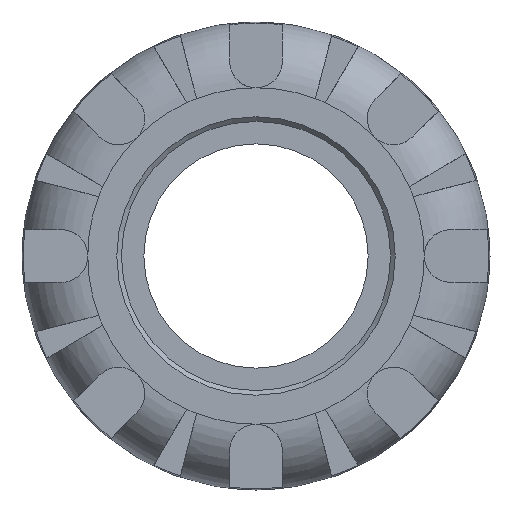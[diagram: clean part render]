
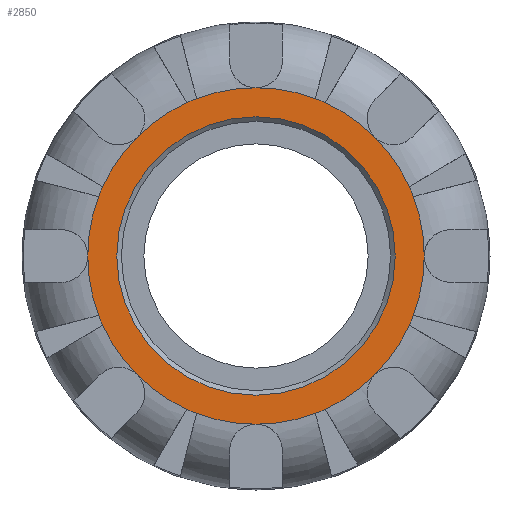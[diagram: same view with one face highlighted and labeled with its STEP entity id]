
A CAD part, left-side view. The second image highlights one B-rep face of the part: STEP entity #2850.
In plain terms, the highlighted planar face has unit normal (-1, 0, 0).
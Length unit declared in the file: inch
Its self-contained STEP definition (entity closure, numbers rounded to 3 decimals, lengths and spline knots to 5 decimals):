
#19=FACE_BOUND('',#619,.T.);
#34=PLANE('',#3049);
#454=FACE_OUTER_BOUND('',#618,.T.);
#618=EDGE_LOOP('',(#1823,#1824,#1825,#1826,#1827,#1828,#1829,#1830,#1831,
#1832,#1833,#1834,#1835,#1836,#1837,#1838,#1839,#1840,#1841,#1842,#1843,
#1844,#1845,#1846));
#619=EDGE_LOOP('',(#1847));
#785=CIRCLE('',#3046,0.67831);
#788=CIRCLE('',#3050,0.81939);
#789=CIRCLE('',#3051,0.81939);
#790=CIRCLE('',#3052,0.81939);
#791=CIRCLE('',#3053,0.81939);
#792=CIRCLE('',#3054,0.81939);
#793=CIRCLE('',#3055,0.81939);
#794=CIRCLE('',#3056,0.81939);
#795=CIRCLE('',#3057,0.81939);
#796=CIRCLE('',#3058,0.81939);
#797=CIRCLE('',#3059,0.81939);
#798=CIRCLE('',#3060,0.81939);
#799=CIRCLE('',#3061,0.81939);
#800=CIRCLE('',#3062,0.81939);
#801=CIRCLE('',#3063,0.81939);
#802=CIRCLE('',#3064,0.81939);
#803=CIRCLE('',#3065,0.81939);
#804=CIRCLE('',#3066,0.81939);
#805=CIRCLE('',#3067,0.81939);
#806=CIRCLE('',#3068,0.81939);
#807=CIRCLE('',#3069,0.81939);
#808=CIRCLE('',#3070,0.81939);
#809=CIRCLE('',#3071,0.81939);
#810=CIRCLE('',#3072,0.81939);
#811=CIRCLE('',#3073,0.81939);
#1077=VERTEX_POINT('',#4469);
#1080=VERTEX_POINT('',#4477);
#1081=VERTEX_POINT('',#4478);
#1082=VERTEX_POINT('',#4480);
#1083=VERTEX_POINT('',#4482);
#1084=VERTEX_POINT('',#4484);
#1085=VERTEX_POINT('',#4486);
#1086=VERTEX_POINT('',#4488);
#1087=VERTEX_POINT('',#4490);
#1088=VERTEX_POINT('',#4492);
#1089=VERTEX_POINT('',#4494);
#1090=VERTEX_POINT('',#4496);
#1091=VERTEX_POINT('',#4498);
#1092=VERTEX_POINT('',#4500);
#1093=VERTEX_POINT('',#4502);
#1094=VERTEX_POINT('',#4504);
#1095=VERTEX_POINT('',#4506);
#1096=VERTEX_POINT('',#4508);
#1097=VERTEX_POINT('',#4510);
#1098=VERTEX_POINT('',#4512);
#1099=VERTEX_POINT('',#4514);
#1100=VERTEX_POINT('',#4516);
#1101=VERTEX_POINT('',#4518);
#1102=VERTEX_POINT('',#4520);
#1103=VERTEX_POINT('',#4522);
#1363=EDGE_CURVE('',#1077,#1077,#785,.T.);
#1367=EDGE_CURVE('',#1080,#1081,#788,.T.);
#1368=EDGE_CURVE('',#1082,#1080,#789,.T.);
#1369=EDGE_CURVE('',#1083,#1082,#790,.T.);
#1370=EDGE_CURVE('',#1084,#1083,#791,.T.);
#1371=EDGE_CURVE('',#1085,#1084,#792,.T.);
#1372=EDGE_CURVE('',#1086,#1085,#793,.T.);
#1373=EDGE_CURVE('',#1087,#1086,#794,.T.);
#1374=EDGE_CURVE('',#1088,#1087,#795,.T.);
#1375=EDGE_CURVE('',#1089,#1088,#796,.T.);
#1376=EDGE_CURVE('',#1090,#1089,#797,.T.);
#1377=EDGE_CURVE('',#1091,#1090,#798,.T.);
#1378=EDGE_CURVE('',#1092,#1091,#799,.T.);
#1379=EDGE_CURVE('',#1093,#1092,#800,.T.);
#1380=EDGE_CURVE('',#1094,#1093,#801,.T.);
#1381=EDGE_CURVE('',#1095,#1094,#802,.T.);
#1382=EDGE_CURVE('',#1096,#1095,#803,.T.);
#1383=EDGE_CURVE('',#1097,#1096,#804,.T.);
#1384=EDGE_CURVE('',#1098,#1097,#805,.T.);
#1385=EDGE_CURVE('',#1099,#1098,#806,.T.);
#1386=EDGE_CURVE('',#1100,#1099,#807,.T.);
#1387=EDGE_CURVE('',#1101,#1100,#808,.T.);
#1388=EDGE_CURVE('',#1102,#1101,#809,.T.);
#1389=EDGE_CURVE('',#1103,#1102,#810,.T.);
#1390=EDGE_CURVE('',#1081,#1103,#811,.T.);
#1823=ORIENTED_EDGE('',*,*,#1367,.F.);
#1824=ORIENTED_EDGE('',*,*,#1368,.F.);
#1825=ORIENTED_EDGE('',*,*,#1369,.F.);
#1826=ORIENTED_EDGE('',*,*,#1370,.F.);
#1827=ORIENTED_EDGE('',*,*,#1371,.F.);
#1828=ORIENTED_EDGE('',*,*,#1372,.F.);
#1829=ORIENTED_EDGE('',*,*,#1373,.F.);
#1830=ORIENTED_EDGE('',*,*,#1374,.F.);
#1831=ORIENTED_EDGE('',*,*,#1375,.F.);
#1832=ORIENTED_EDGE('',*,*,#1376,.F.);
#1833=ORIENTED_EDGE('',*,*,#1377,.F.);
#1834=ORIENTED_EDGE('',*,*,#1378,.F.);
#1835=ORIENTED_EDGE('',*,*,#1379,.F.);
#1836=ORIENTED_EDGE('',*,*,#1380,.F.);
#1837=ORIENTED_EDGE('',*,*,#1381,.F.);
#1838=ORIENTED_EDGE('',*,*,#1382,.F.);
#1839=ORIENTED_EDGE('',*,*,#1383,.F.);
#1840=ORIENTED_EDGE('',*,*,#1384,.F.);
#1841=ORIENTED_EDGE('',*,*,#1385,.F.);
#1842=ORIENTED_EDGE('',*,*,#1386,.F.);
#1843=ORIENTED_EDGE('',*,*,#1387,.F.);
#1844=ORIENTED_EDGE('',*,*,#1388,.F.);
#1845=ORIENTED_EDGE('',*,*,#1389,.F.);
#1846=ORIENTED_EDGE('',*,*,#1390,.F.);
#1847=ORIENTED_EDGE('',*,*,#1363,.F.);
#2850=ADVANCED_FACE('',(#454,#19),#34,.T.);
#3046=AXIS2_PLACEMENT_3D('',#4470,#3418,#3419);
#3049=AXIS2_PLACEMENT_3D('',#4476,#3425,#3426);
#3050=AXIS2_PLACEMENT_3D('',#4479,#3427,#3428);
#3051=AXIS2_PLACEMENT_3D('',#4481,#3429,#3430);
#3052=AXIS2_PLACEMENT_3D('',#4483,#3431,#3432);
#3053=AXIS2_PLACEMENT_3D('',#4485,#3433,#3434);
#3054=AXIS2_PLACEMENT_3D('',#4487,#3435,#3436);
#3055=AXIS2_PLACEMENT_3D('',#4489,#3437,#3438);
#3056=AXIS2_PLACEMENT_3D('',#4491,#3439,#3440);
#3057=AXIS2_PLACEMENT_3D('',#4493,#3441,#3442);
#3058=AXIS2_PLACEMENT_3D('',#4495,#3443,#3444);
#3059=AXIS2_PLACEMENT_3D('',#4497,#3445,#3446);
#3060=AXIS2_PLACEMENT_3D('',#4499,#3447,#3448);
#3061=AXIS2_PLACEMENT_3D('',#4501,#3449,#3450);
#3062=AXIS2_PLACEMENT_3D('',#4503,#3451,#3452);
#3063=AXIS2_PLACEMENT_3D('',#4505,#3453,#3454);
#3064=AXIS2_PLACEMENT_3D('',#4507,#3455,#3456);
#3065=AXIS2_PLACEMENT_3D('',#4509,#3457,#3458);
#3066=AXIS2_PLACEMENT_3D('',#4511,#3459,#3460);
#3067=AXIS2_PLACEMENT_3D('',#4513,#3461,#3462);
#3068=AXIS2_PLACEMENT_3D('',#4515,#3463,#3464);
#3069=AXIS2_PLACEMENT_3D('',#4517,#3465,#3466);
#3070=AXIS2_PLACEMENT_3D('',#4519,#3467,#3468);
#3071=AXIS2_PLACEMENT_3D('',#4521,#3469,#3470);
#3072=AXIS2_PLACEMENT_3D('',#4523,#3471,#3472);
#3073=AXIS2_PLACEMENT_3D('',#4524,#3473,#3474);
#3418=DIRECTION('center_axis',(-1.,0.,0.));
#3419=DIRECTION('ref_axis',(0.,-1.,0.));
#3425=DIRECTION('center_axis',(-1.,0.,0.));
#3426=DIRECTION('ref_axis',(0.,0.,1.));
#3427=DIRECTION('center_axis',(1.,0.,0.));
#3428=DIRECTION('ref_axis',(0.,0.,-1.));
#3429=DIRECTION('center_axis',(1.,0.,0.));
#3430=DIRECTION('ref_axis',(0.,0.,-1.));
#3431=DIRECTION('center_axis',(1.,0.,0.));
#3432=DIRECTION('ref_axis',(0.,0.,-1.));
#3433=DIRECTION('center_axis',(1.,0.,0.));
#3434=DIRECTION('ref_axis',(0.,0.,-1.));
#3435=DIRECTION('center_axis',(1.,0.,0.));
#3436=DIRECTION('ref_axis',(0.,0.,-1.));
#3437=DIRECTION('center_axis',(1.,0.,0.));
#3438=DIRECTION('ref_axis',(0.,0.,-1.));
#3439=DIRECTION('center_axis',(1.,0.,0.));
#3440=DIRECTION('ref_axis',(0.,0.,-1.));
#3441=DIRECTION('center_axis',(1.,0.,0.));
#3442=DIRECTION('ref_axis',(0.,0.,-1.));
#3443=DIRECTION('center_axis',(1.,0.,0.));
#3444=DIRECTION('ref_axis',(0.,0.,-1.));
#3445=DIRECTION('center_axis',(1.,0.,0.));
#3446=DIRECTION('ref_axis',(0.,0.,-1.));
#3447=DIRECTION('center_axis',(1.,0.,0.));
#3448=DIRECTION('ref_axis',(0.,0.,-1.));
#3449=DIRECTION('center_axis',(1.,0.,0.));
#3450=DIRECTION('ref_axis',(0.,0.,-1.));
#3451=DIRECTION('center_axis',(1.,0.,0.));
#3452=DIRECTION('ref_axis',(0.,0.,-1.));
#3453=DIRECTION('center_axis',(1.,0.,0.));
#3454=DIRECTION('ref_axis',(0.,0.,-1.));
#3455=DIRECTION('center_axis',(1.,0.,0.));
#3456=DIRECTION('ref_axis',(0.,0.,-1.));
#3457=DIRECTION('center_axis',(1.,0.,0.));
#3458=DIRECTION('ref_axis',(0.,0.,-1.));
#3459=DIRECTION('center_axis',(1.,0.,0.));
#3460=DIRECTION('ref_axis',(0.,0.,-1.));
#3461=DIRECTION('center_axis',(1.,0.,0.));
#3462=DIRECTION('ref_axis',(0.,0.,-1.));
#3463=DIRECTION('center_axis',(1.,0.,0.));
#3464=DIRECTION('ref_axis',(0.,0.,-1.));
#3465=DIRECTION('center_axis',(1.,0.,0.));
#3466=DIRECTION('ref_axis',(0.,0.,-1.));
#3467=DIRECTION('center_axis',(1.,0.,0.));
#3468=DIRECTION('ref_axis',(0.,0.,-1.));
#3469=DIRECTION('center_axis',(1.,0.,0.));
#3470=DIRECTION('ref_axis',(0.,0.,-1.));
#3471=DIRECTION('center_axis',(1.,0.,0.));
#3472=DIRECTION('ref_axis',(0.,0.,-1.));
#3473=DIRECTION('center_axis',(1.,0.,0.));
#3474=DIRECTION('ref_axis',(0.,0.,-1.));
#4469=CARTESIAN_POINT('',(-2.125,0.67831,0.));
#4470=CARTESIAN_POINT('Origin',(-2.125,0.,0.));
#4476=CARTESIAN_POINT('Origin',(-2.125,0.81939,0.));
#4477=CARTESIAN_POINT('',(-2.125,0.81939,0.));
#4478=CARTESIAN_POINT('',(-2.125,0.76666,0.28918));
#4479=CARTESIAN_POINT('Origin',(-2.125,0.,0.));
#4480=CARTESIAN_POINT('',(-2.125,0.76666,-0.28918));
#4481=CARTESIAN_POINT('Origin',(-2.125,0.,0.));
#4482=CARTESIAN_POINT('',(-2.125,0.7466,-0.33763));
#4483=CARTESIAN_POINT('Origin',(-2.125,0.,0.));
#4484=CARTESIAN_POINT('',(-2.125,0.5794,-0.5794));
#4485=CARTESIAN_POINT('Origin',(-2.125,0.,0.));
#4486=CARTESIAN_POINT('',(-2.125,0.33763,-0.7466));
#4487=CARTESIAN_POINT('Origin',(-2.125,0.,0.));
#4488=CARTESIAN_POINT('',(-2.125,0.28918,-0.76666));
#4489=CARTESIAN_POINT('Origin',(-2.125,0.,0.));
#4490=CARTESIAN_POINT('',(-2.125,0.,-0.81939));
#4491=CARTESIAN_POINT('Origin',(-2.125,0.,0.));
#4492=CARTESIAN_POINT('',(-2.125,-0.28918,-0.76666));
#4493=CARTESIAN_POINT('Origin',(-2.125,0.,0.));
#4494=CARTESIAN_POINT('',(-2.125,-0.33763,-0.7466));
#4495=CARTESIAN_POINT('Origin',(-2.125,0.,0.));
#4496=CARTESIAN_POINT('',(-2.125,-0.5794,-0.5794));
#4497=CARTESIAN_POINT('Origin',(-2.125,0.,0.));
#4498=CARTESIAN_POINT('',(-2.125,-0.7466,-0.33763));
#4499=CARTESIAN_POINT('Origin',(-2.125,0.,0.));
#4500=CARTESIAN_POINT('',(-2.125,-0.76666,-0.28918));
#4501=CARTESIAN_POINT('Origin',(-2.125,0.,0.));
#4502=CARTESIAN_POINT('',(-2.125,-0.81939,0.));
#4503=CARTESIAN_POINT('Origin',(-2.125,0.,0.));
#4504=CARTESIAN_POINT('',(-2.125,-0.76666,0.28918));
#4505=CARTESIAN_POINT('Origin',(-2.125,0.,0.));
#4506=CARTESIAN_POINT('',(-2.125,-0.7466,0.33763));
#4507=CARTESIAN_POINT('Origin',(-2.125,0.,0.));
#4508=CARTESIAN_POINT('',(-2.125,-0.5794,0.5794));
#4509=CARTESIAN_POINT('Origin',(-2.125,0.,0.));
#4510=CARTESIAN_POINT('',(-2.125,-0.33763,0.7466));
#4511=CARTESIAN_POINT('Origin',(-2.125,0.,0.));
#4512=CARTESIAN_POINT('',(-2.125,-0.28918,0.76666));
#4513=CARTESIAN_POINT('Origin',(-2.125,0.,0.));
#4514=CARTESIAN_POINT('',(-2.125,0.,0.81939));
#4515=CARTESIAN_POINT('Origin',(-2.125,0.,0.));
#4516=CARTESIAN_POINT('',(-2.125,0.28918,0.76666));
#4517=CARTESIAN_POINT('Origin',(-2.125,0.,0.));
#4518=CARTESIAN_POINT('',(-2.125,0.33763,0.7466));
#4519=CARTESIAN_POINT('Origin',(-2.125,0.,0.));
#4520=CARTESIAN_POINT('',(-2.125,0.5794,0.5794));
#4521=CARTESIAN_POINT('Origin',(-2.125,0.,0.));
#4522=CARTESIAN_POINT('',(-2.125,0.7466,0.33763));
#4523=CARTESIAN_POINT('Origin',(-2.125,0.,0.));
#4524=CARTESIAN_POINT('Origin',(-2.125,0.,0.));
